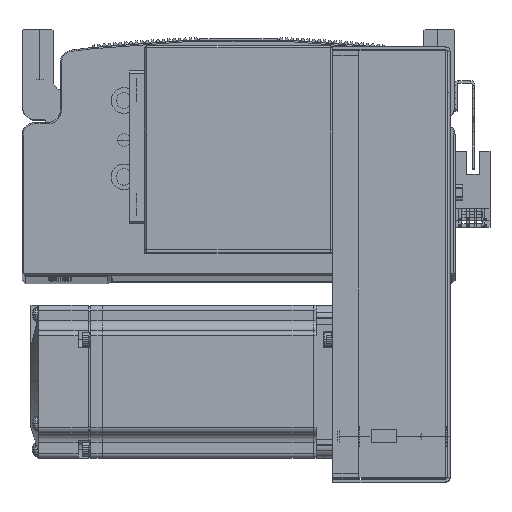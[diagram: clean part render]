
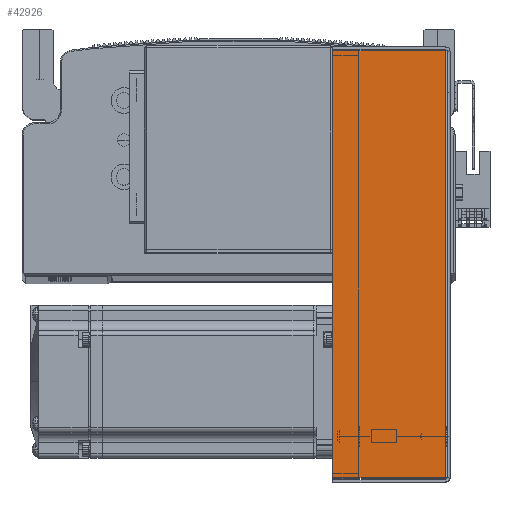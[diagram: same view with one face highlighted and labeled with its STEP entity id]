
A CAD part, top view. The second image highlights one B-rep face of the part: STEP entity #42926.
In plain terms, the highlighted planar face has unit normal (0, 0, 1) as drawn and (0, 0, -1) by its records, which use the part's own axes.
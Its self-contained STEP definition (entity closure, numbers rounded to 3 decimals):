
#15155 = VECTOR ( 'NONE', #77401, 1000. ) ;
#15157 = LINE ( 'NONE', #77345, #15155 ) ;
#16191 = LINE ( 'NONE', #52070, #16219 ) ;
#16197 = VECTOR ( 'NONE', #51830, 1000. ) ;
#16199 = LINE ( 'NONE', #51579, #16247 ) ;
#16207 = LINE ( 'NONE', #51724, #16197 ) ;
#16219 = VECTOR ( 'NONE', #52154, 1000. ) ;
#16247 = VECTOR ( 'NONE', #51637, 1000. ) ;
#17064 = AXIS2_PLACEMENT_3D ( 'NONE', #37088, #37094, #37152 ) ;
#19558 = FACE_OUTER_BOUND ( 'NONE', #83753, .T. ) ;
#37001 = PLANE ( 'NONE',  #17064 ) ;
#37088 = CARTESIAN_POINT ( 'NONE',  ( 0., 0., -40.5 ) ) ;
#37094 = DIRECTION ( 'NONE',  ( 0., 0., 1. ) ) ;
#37152 = DIRECTION ( 'NONE',  ( 0., -1., 0. ) ) ;
#38092 = CARTESIAN_POINT ( 'NONE',  ( -83.793, 0.737, -40.5 ) ) ;
#38117 = CARTESIAN_POINT ( 'NONE',  ( -83.793, 45., -40.5 ) ) ;
#38132 = CARTESIAN_POINT ( 'NONE',  ( 83.793, 45., -40.5 ) ) ;
#38164 = CARTESIAN_POINT ( 'NONE',  ( 83.793, 0.737, -40.5 ) ) ;
#42926 = ADVANCED_FACE ( 'NONE', ( #19558 ), #37001, .F. ) ;
#44621 = VERTEX_POINT ( 'NONE', #38132 ) ;
#44637 = VERTEX_POINT ( 'NONE', #38117 ) ;
#44682 = VERTEX_POINT ( 'NONE', #38092 ) ;
#44808 = VERTEX_POINT ( 'NONE', #38164 ) ;
#51579 = CARTESIAN_POINT ( 'NONE',  ( -83.793, 0., -40.5 ) ) ;
#51637 = DIRECTION ( 'NONE',  ( 0., 1., 0. ) ) ;
#51724 = CARTESIAN_POINT ( 'NONE',  ( 0., 0.737, -40.5 ) ) ;
#51830 = DIRECTION ( 'NONE',  ( 1., 0., 0. ) ) ;
#52070 = CARTESIAN_POINT ( 'NONE',  ( 83.793, 0., -40.5 ) ) ;
#52154 = DIRECTION ( 'NONE',  ( 0., 1., 0. ) ) ;
#59144 = EDGE_CURVE ( 'NONE', #44682, #44637, #16199, .T. ) ;
#59154 = EDGE_CURVE ( 'NONE', #44682, #44808, #16207, .T. ) ;
#59168 = EDGE_CURVE ( 'NONE', #44808, #44621, #16191, .T. ) ;
#59232 = EDGE_CURVE ( 'NONE', #44637, #44621, #15157, .T. ) ;
#75510 = ORIENTED_EDGE ( 'NONE', *, *, #59144, .T. ) ;
#75512 = ORIENTED_EDGE ( 'NONE', *, *, #59232, .T. ) ;
#75522 = ORIENTED_EDGE ( 'NONE', *, *, #59154, .F. ) ;
#75535 = ORIENTED_EDGE ( 'NONE', *, *, #59168, .F. ) ;
#77345 = CARTESIAN_POINT ( 'NONE',  ( 84.5, 45., -40.5 ) ) ;
#77401 = DIRECTION ( 'NONE',  ( 1., 0., 0. ) ) ;
#83753 = EDGE_LOOP ( 'NONE', ( #75522, #75510, #75512, #75535 ) ) ;
